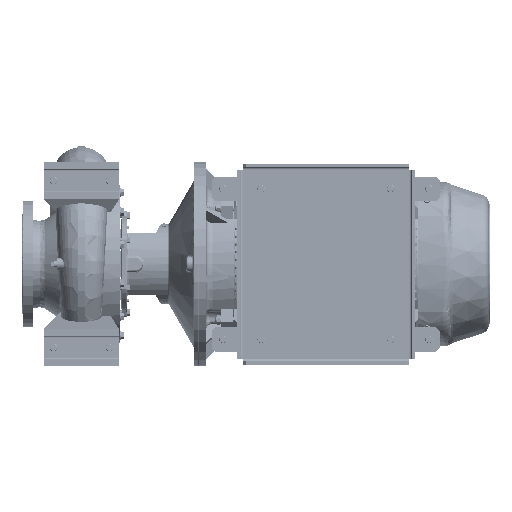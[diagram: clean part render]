
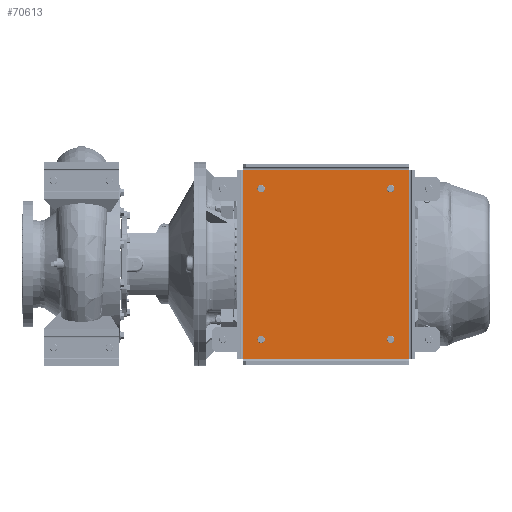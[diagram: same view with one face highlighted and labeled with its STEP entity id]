
A CAD part, front view. The second image highlights one B-rep face of the part: STEP entity #70613.
In plain terms, the highlighted planar face has unit normal (0, -1, 0).
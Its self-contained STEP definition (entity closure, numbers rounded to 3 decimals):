
#324 = CARTESIAN_POINT ( 'NONE',  ( 415., 56., -57.5 ) ) ;
#428 = CARTESIAN_POINT ( 'NONE',  ( 465., 56., -525. ) ) ;
#4356 = AXIS2_PLACEMENT_3D ( 'NONE', #86579, #119403, #90386 ) ;
#6967 = CARTESIAN_POINT ( 'NONE',  ( 16., 56., -16. ) ) ;
#7011 = CIRCLE ( 'NONE', #62659, 10. ) ;
#8831 = DIRECTION ( 'NONE',  ( 0., 0., -1. ) ) ;
#10273 = EDGE_CURVE ( 'NONE', #158915, #101339, #77521, .T. ) ;
#14751 = CARTESIAN_POINT ( 'NONE',  ( 0., 56., 0. ) ) ;
#14933 = DIRECTION ( 'NONE',  ( 1., 0., 0. ) ) ;
#16506 = CARTESIAN_POINT ( 'NONE',  ( 66., 56., -483.5 ) ) ;
#17636 = DIRECTION ( 'NONE',  ( 0., -1., 0. ) ) ;
#22618 = EDGE_LOOP ( 'NONE', ( #171409, #181488 ) ) ;
#24351 = VERTEX_POINT ( 'NONE', #113375 ) ;
#25327 = EDGE_CURVE ( 'NONE', #119536, #50398, #91481, .T. ) ;
#26522 = EDGE_CURVE ( 'NONE', #182592, #77735, #147407, .T. ) ;
#29800 = EDGE_CURVE ( 'NONE', #24351, #179377, #38280, .T. ) ;
#30942 = CARTESIAN_POINT ( 'NONE',  ( 66., 56., -67.5 ) ) ;
#31158 = FACE_BOUND ( 'NONE', #154463, .T. ) ;
#32512 = VECTOR ( 'NONE', #14933, 1000. ) ;
#32703 = ORIENTED_EDGE ( 'NONE', *, *, #25327, .T. ) ;
#35811 = AXIS2_PLACEMENT_3D ( 'NONE', #131931, #44832, #56508 ) ;
#38280 = CIRCLE ( 'NONE', #4356, 10. ) ;
#41258 = CIRCLE ( 'NONE', #112369, 10. ) ;
#42785 = FACE_BOUND ( 'NONE', #153186, .T. ) ;
#44217 = VECTOR ( 'NONE', #81386, 1000. ) ;
#44832 = DIRECTION ( 'NONE',  ( 0., 1., 0. ) ) ;
#50398 = VERTEX_POINT ( 'NONE', #61245 ) ;
#50444 = DIRECTION ( 'NONE',  ( 0., 0., -1. ) ) ;
#51328 = CARTESIAN_POINT ( 'NONE',  ( 415., 56., -463.5 ) ) ;
#51372 = DIRECTION ( 'NONE',  ( 0., 1., 0. ) ) ;
#53364 = CARTESIAN_POINT ( 'NONE',  ( 465., 56., -525. ) ) ;
#54686 = FACE_OUTER_BOUND ( 'NONE', #63400, .T. ) ;
#56508 = DIRECTION ( 'NONE',  ( 0., 0., -1. ) ) ;
#57284 = ORIENTED_EDGE ( 'NONE', *, *, #29800, .T. ) ;
#61245 = CARTESIAN_POINT ( 'NONE',  ( 415., 56., -483.5 ) ) ;
#62659 = AXIS2_PLACEMENT_3D ( 'NONE', #30942, #147968, #104441 ) ;
#63400 = EDGE_LOOP ( 'NONE', ( #130337, #106032, #92540, #79250 ) ) ;
#64022 = CARTESIAN_POINT ( 'NONE',  ( 415., 56., -473.5 ) ) ;
#64852 = DIRECTION ( 'NONE',  ( 0., 0., -1. ) ) ;
#65955 = DIRECTION ( 'NONE',  ( 0., 1., 0. ) ) ;
#66124 = EDGE_CURVE ( 'NONE', #89834, #171233, #7011, .T. ) ;
#66869 = EDGE_CURVE ( 'NONE', #138340, #86452, #128748, .T. ) ;
#70613 = ADVANCED_FACE ( 'NONE', ( #54686, #42785, #101772, #121063, #31158 ), #117263, .T. ) ;
#70619 = EDGE_CURVE ( 'NONE', #50398, #119536, #131490, .T. ) ;
#70670 = DIRECTION ( 'NONE',  ( 0., 1., 0. ) ) ;
#73726 = DIRECTION ( 'NONE',  ( 0., 0., -1. ) ) ;
#77521 = CIRCLE ( 'NONE', #102192, 10. ) ;
#77735 = VERTEX_POINT ( 'NONE', #53364 ) ;
#79250 = ORIENTED_EDGE ( 'NONE', *, *, #26522, .T. ) ;
#81386 = DIRECTION ( 'NONE',  ( -1., 0., 0. ) ) ;
#84939 = EDGE_LOOP ( 'NONE', ( #57284, #160531 ) ) ;
#85115 = EDGE_CURVE ( 'NONE', #101339, #158915, #110563, .T. ) ;
#86452 = VERTEX_POINT ( 'NONE', #117864 ) ;
#86579 = CARTESIAN_POINT ( 'NONE',  ( 66., 56., -473.5 ) ) ;
#87034 = CARTESIAN_POINT ( 'NONE',  ( 66., 56., -57.5 ) ) ;
#89834 = VERTEX_POINT ( 'NONE', #87034 ) ;
#90386 = DIRECTION ( 'NONE',  ( 0., 0., -1. ) ) ;
#91481 = CIRCLE ( 'NONE', #35811, 10. ) ;
#92126 = CARTESIAN_POINT ( 'NONE',  ( 66., 56., -67.5 ) ) ;
#92540 = ORIENTED_EDGE ( 'NONE', *, *, #156050, .T. ) ;
#101339 = VERTEX_POINT ( 'NONE', #103579 ) ;
#101528 = DIRECTION ( 'NONE',  ( 0., 1., 0. ) ) ;
#101772 = FACE_BOUND ( 'NONE', #84939, .T. ) ;
#102192 = AXIS2_PLACEMENT_3D ( 'NONE', #131522, #101528, #190545 ) ;
#102195 = CARTESIAN_POINT ( 'NONE',  ( 66., 56., -77.5 ) ) ;
#103579 = CARTESIAN_POINT ( 'NONE',  ( 415., 56., -77.5 ) ) ;
#104441 = DIRECTION ( 'NONE',  ( 0., 0., -1. ) ) ;
#106032 = ORIENTED_EDGE ( 'NONE', *, *, #66869, .T. ) ;
#107106 = LINE ( 'NONE', #151595, #159330 ) ;
#110380 = DIRECTION ( 'NONE',  ( 0., 0., -1. ) ) ;
#110563 = CIRCLE ( 'NONE', #126025, 10. ) ;
#110874 = DIRECTION ( 'NONE',  ( 0., 0., -1. ) ) ;
#111163 = ORIENTED_EDGE ( 'NONE', *, *, #70619, .T. ) ;
#112369 = AXIS2_PLACEMENT_3D ( 'NONE', #123471, #127273, #110874 ) ;
#112861 = AXIS2_PLACEMENT_3D ( 'NONE', #14751, #17636, #73726 ) ;
#113375 = CARTESIAN_POINT ( 'NONE',  ( 66., 56., -463.5 ) ) ;
#114864 = EDGE_CURVE ( 'NONE', #77735, #138340, #107106, .T. ) ;
#117263 = PLANE ( 'NONE',  #112861 ) ;
#117736 = ORIENTED_EDGE ( 'NONE', *, *, #10273, .T. ) ;
#117864 = CARTESIAN_POINT ( 'NONE',  ( 16., 56., -16. ) ) ;
#119403 = DIRECTION ( 'NONE',  ( 0., 1., 0. ) ) ;
#119536 = VERTEX_POINT ( 'NONE', #51328 ) ;
#121063 = FACE_BOUND ( 'NONE', #22618, .T. ) ;
#122579 = DIRECTION ( 'NONE',  ( 0., 0., 1. ) ) ;
#123136 = EDGE_CURVE ( 'NONE', #171233, #89834, #169660, .T. ) ;
#123471 = CARTESIAN_POINT ( 'NONE',  ( 66., 56., -473.5 ) ) ;
#126025 = AXIS2_PLACEMENT_3D ( 'NONE', #127719, #70670, #8831 ) ;
#127273 = DIRECTION ( 'NONE',  ( 0., 1., 0. ) ) ;
#127719 = CARTESIAN_POINT ( 'NONE',  ( 415., 56., -67.5 ) ) ;
#128748 = LINE ( 'NONE', #6967, #44217 ) ;
#130337 = ORIENTED_EDGE ( 'NONE', *, *, #114864, .T. ) ;
#131490 = CIRCLE ( 'NONE', #180947, 10. ) ;
#131522 = CARTESIAN_POINT ( 'NONE',  ( 415., 56., -67.5 ) ) ;
#131931 = CARTESIAN_POINT ( 'NONE',  ( 415., 56., -473.5 ) ) ;
#135697 = AXIS2_PLACEMENT_3D ( 'NONE', #92126, #65955, #50444 ) ;
#138340 = VERTEX_POINT ( 'NONE', #144347 ) ;
#144347 = CARTESIAN_POINT ( 'NONE',  ( 465., 56., -16. ) ) ;
#146736 = EDGE_CURVE ( 'NONE', #179377, #24351, #41258, .T. ) ;
#147407 = LINE ( 'NONE', #428, #32512 ) ;
#147968 = DIRECTION ( 'NONE',  ( 0., 1., 0. ) ) ;
#151595 = CARTESIAN_POINT ( 'NONE',  ( 465., 56., -16. ) ) ;
#153186 = EDGE_LOOP ( 'NONE', ( #32703, #111163 ) ) ;
#154463 = EDGE_LOOP ( 'NONE', ( #117736, #172569 ) ) ;
#156050 = EDGE_CURVE ( 'NONE', #86452, #182592, #163537, .T. ) ;
#158302 = CARTESIAN_POINT ( 'NONE',  ( 16., 56., -525. ) ) ;
#158915 = VERTEX_POINT ( 'NONE', #324 ) ;
#159330 = VECTOR ( 'NONE', #122579, 1000. ) ;
#160531 = ORIENTED_EDGE ( 'NONE', *, *, #146736, .T. ) ;
#163537 = LINE ( 'NONE', #168292, #165099 ) ;
#165099 = VECTOR ( 'NONE', #64852, 1000. ) ;
#168292 = CARTESIAN_POINT ( 'NONE',  ( 16., 56., -525. ) ) ;
#169660 = CIRCLE ( 'NONE', #135697, 10. ) ;
#171233 = VERTEX_POINT ( 'NONE', #102195 ) ;
#171409 = ORIENTED_EDGE ( 'NONE', *, *, #66124, .T. ) ;
#172569 = ORIENTED_EDGE ( 'NONE', *, *, #85115, .T. ) ;
#179377 = VERTEX_POINT ( 'NONE', #16506 ) ;
#180947 = AXIS2_PLACEMENT_3D ( 'NONE', #64022, #51372, #110380 ) ;
#181488 = ORIENTED_EDGE ( 'NONE', *, *, #123136, .T. ) ;
#182592 = VERTEX_POINT ( 'NONE', #158302 ) ;
#190545 = DIRECTION ( 'NONE',  ( 0., 0., -1. ) ) ;
